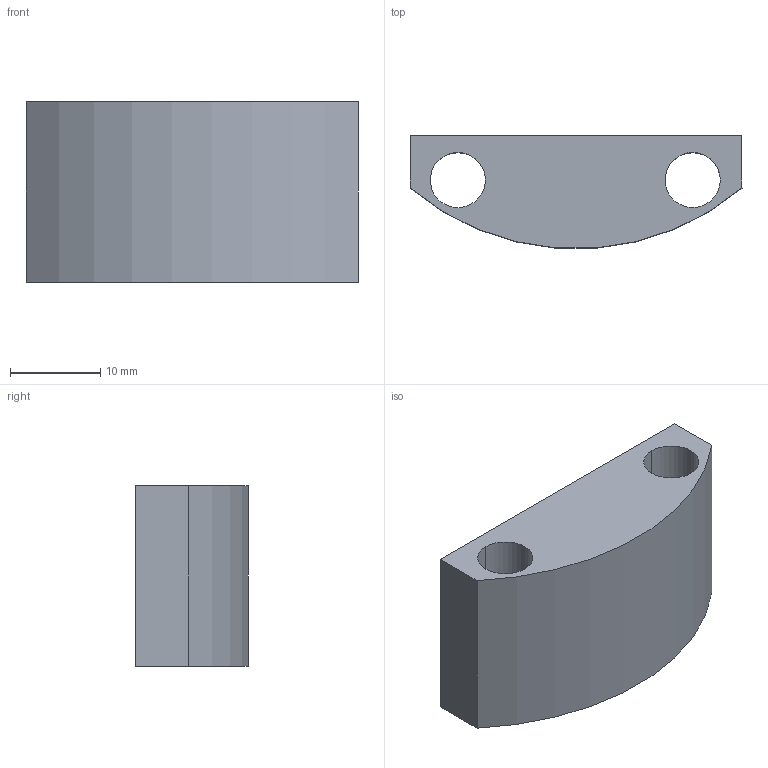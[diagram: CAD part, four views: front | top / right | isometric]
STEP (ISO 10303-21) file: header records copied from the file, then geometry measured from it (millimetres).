
FILE_DESCRIPTION(/* description */ ('VariCAD 2008 3.04 AP-203'),/* implementation_level */ '2;1');
FILE_NAME(/* name */ '0353-19-05',/* time_stamp */ '2009-04-22T19:54:03-06:00',/* author */ (''),/* organization */ (''),/* preprocessor_version */ 'ST-DEVELOPER v12',/* originating_system */ 'VariCAD 2008 3.04; kernel version (20080715)',/* authorisation */ '');
FILE_SCHEMA (('CONFIG_CONTROL_DESIGN'));
Length unit declared in the file: millimetre
Products named in the file (1): Part
Bounding box: 36.75 x 12.41 x 20 mm (x, y, z)
Volume: 4300.6 mm3; surface area: 3948.7 mm2
Topology: 7 solids, 7 shells, 106 faces, 239 edges, 146 vertices
Faces by surface type: cylinder 59, cone 28, plane 19
Entity records: 3222 total; most frequent: CARTESIAN_POINT 749, DIRECTION 542, ORIENTED_EDGE 470, EDGE_CURVE 235, AXIS2_PLACEMENT_3D 223, VERTEX_POINT 144, EDGE_LOOP 125, CIRCLE 111
